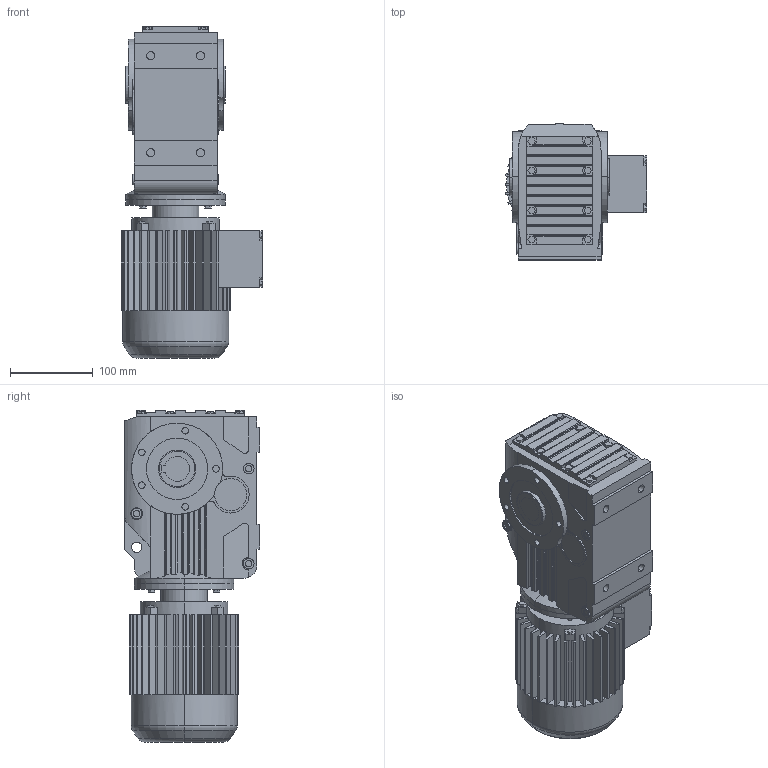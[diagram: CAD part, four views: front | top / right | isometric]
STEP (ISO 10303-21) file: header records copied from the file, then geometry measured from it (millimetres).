
FILE_DESCRIPTION(('Open CASCADE Model'),'2;1');
FILE_NAME('Open CASCADE Shape Model','2018-06-11T15:11:24',('Author'),( 'Open CASCADE'),'Open CASCADE STEP processor 6.3','Open CASCADE 6.3' ,'Unknown');
FILE_SCHEMA(('AUTOMOTIVE_DESIGN_CC2 { 1 2 10303 214 -1 1 5 4 }'));
Length unit declared in the file: millimetre
Products named in the file (4): 35_KA37DR63-A; KA37‵107_37.step; 萇儂_120-DR63-191-246-132-105.step; す瑩諾陑粣K_37.step
Assembly tree (3 placements, depth 2):
  35_KA37DR63-A
    KA37‵107_37.step
    萇儂_120-DR63-191-246-132-105.step
    す瑩諾陑粣K_37.step
Bounding box: 171.5 x 164 x 401 mm (x, y, z)
Volume: 5317119.8 mm3; surface area: 398777.2 mm2
Topology: 3 solids, 3 shells, 828 faces, 2170 edges, 1413 vertices
Faces by surface type: plane 550, cylinder 268, cone 6, torus 4
Entity records: 61731 total; most frequent: CARTESIAN_POINT 21005, DIRECTION 6833, ORIENTED_EDGE 4340, PCURVE 4340, DEFINITIONAL_REPRESENTATION 4340, LINE 3601, VECTOR 3601, EDGE_CURVE 2170
